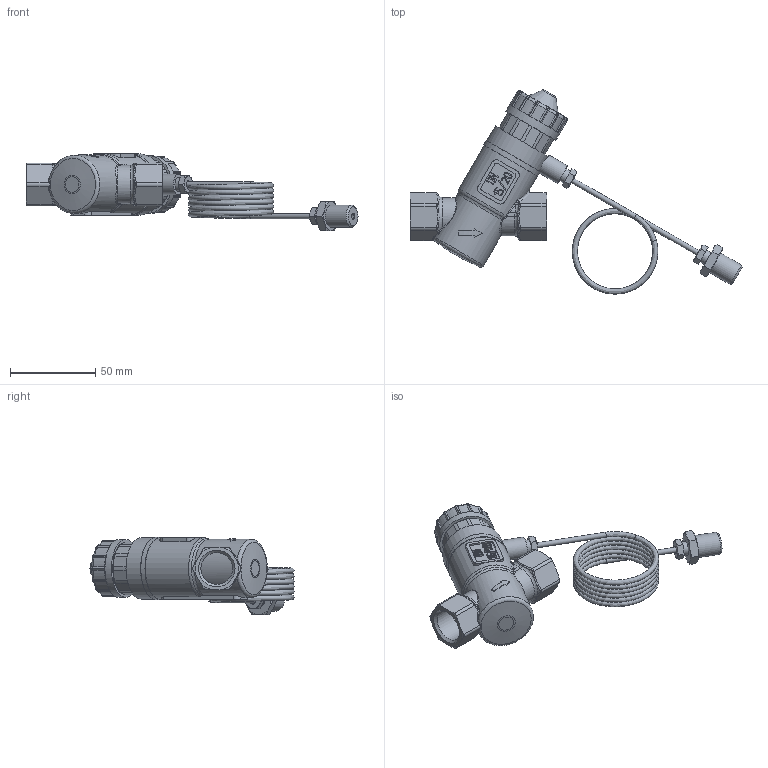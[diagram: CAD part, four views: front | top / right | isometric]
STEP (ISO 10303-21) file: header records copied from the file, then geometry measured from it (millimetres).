
FILE_DESCRIPTION(('STEP AP242'), '1');
FILE_NAME('VT.043.GLA.0401', '', ('UNSPECIFIED'), ('UNSPECIFIED'), 'C3D Converter', 'C3D Toolkit', '');
FILE_SCHEMA(('AP242_MANAGED_MODEL_BASED_3D_ENGINEERING_MIM_LF { 1 0 10303 442 1 1 4 }'));
Length unit declared in the file: millimetre
Products named in the file (1): ВР.493612.019.000 СБ
Bounding box: 194.39 x 119.51 x 45.4 mm (x, y, z)
Volume: 113398.3 mm3; surface area: 39532.2 mm2
Topology: 3 solids, 5 shells, 700 faces, 1717 edges, 1062 vertices
Faces by surface type: plane 219, cylinder 170, bspline 114, extrusion 100, cone 73, torus 24
Full cylindrical faces by diameter (mm): 1.2 x2, 2 x1, 3 x3, 3.1 x2, 3.5 x2, 4.4 x2, 6.5 x2, 6.647 x1, 8 x2, 12 x1, 13.157 x1, 18.632 x2, 22 x1, 25 x1, 28.376 x1, 30 x1, 33.9 x1, 34.1 x1, 36 x1, 36.6 x1
Entity records: 38598 total; most frequent: CARTESIAN_POINT 23923, ORIENTED_EDGE 3314, DIRECTION 2402, EDGE_CURVE 1657, VERTEX_POINT 1060, AXIS2_PLACEMENT_3D 838, EDGE_LOOP 797, B_SPLINE_CURVE_WITH_KNOTS 753
